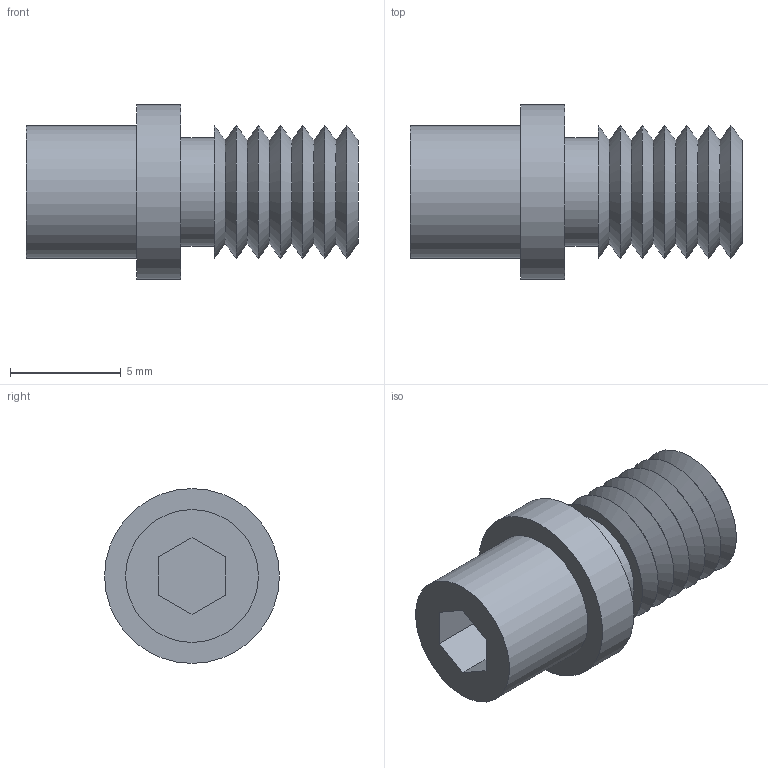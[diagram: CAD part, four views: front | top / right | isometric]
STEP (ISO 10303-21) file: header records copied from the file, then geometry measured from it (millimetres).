
FILE_DESCRIPTION((''),'1');
FILE_NAME('H:/図庫/国内ﾕﾆｯﾄ/ﾓﾉﾀﾛｳ/ホームページ用CAD図/ネジ付き', '2020-04-29T02:41:46',(''), (''), 'KCM Version 1.1.1442.0', 'Kubotek KeyCreator', '');
FILE_SCHEMA(('AUTOMOTIVE_DESIGN'));
Length unit declared in the file: millimetre
Bounding box: 15 x 7.9 x 7.9 mm (x, y, z)
Surface area: 485.4 mm2 (no closed solid volume)
Topology: 0 solids, 28 shells, 28 faces, 92 edges, 76 vertices
Faces by surface type: cone 13, plane 12, cylinder 3
Full cylindrical faces by diameter (mm): 4.9 x1, 6 x1, 7.9 x1
Entity records: 1070 total; most frequent: CARTESIAN_POINT 197, DIRECTION 190, ORIENTED_EDGE 108, EDGE_CURVE 92, VERTEX_POINT 76, AXIS2_PLACEMENT_3D 69, VECTOR 52, LINE 52
